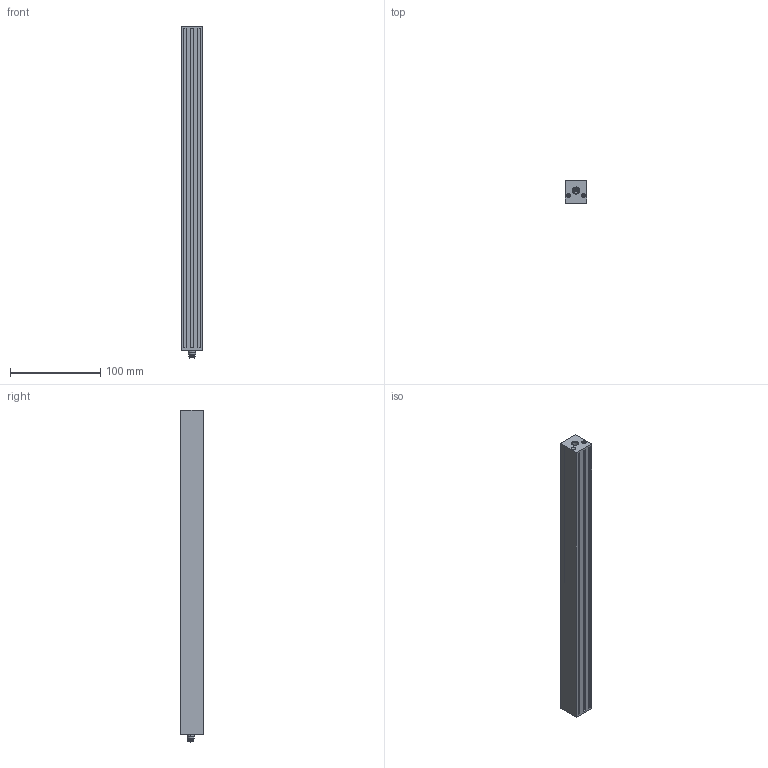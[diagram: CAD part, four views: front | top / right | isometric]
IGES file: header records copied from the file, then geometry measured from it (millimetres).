
Start section: IMSI TurboCAD v14.0
Global section: author: NULL; organization: NULL; date: 20191210.133719; units: millimetre
Bounding box: 24 x 25.5 x 368.7 mm (x, y, z)
Surface area: 89194.4 mm2 (no closed solid volume)
Topology: 0 solids, 0 shells, 324 faces, 1978 edges, 1966 vertices
Faces by surface type: revolution 183, extrusion 139, bspline 2
